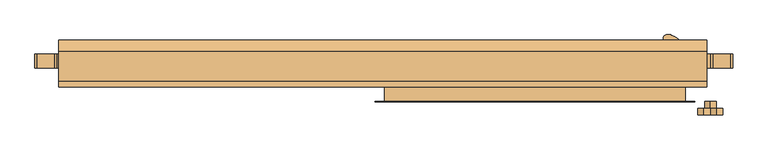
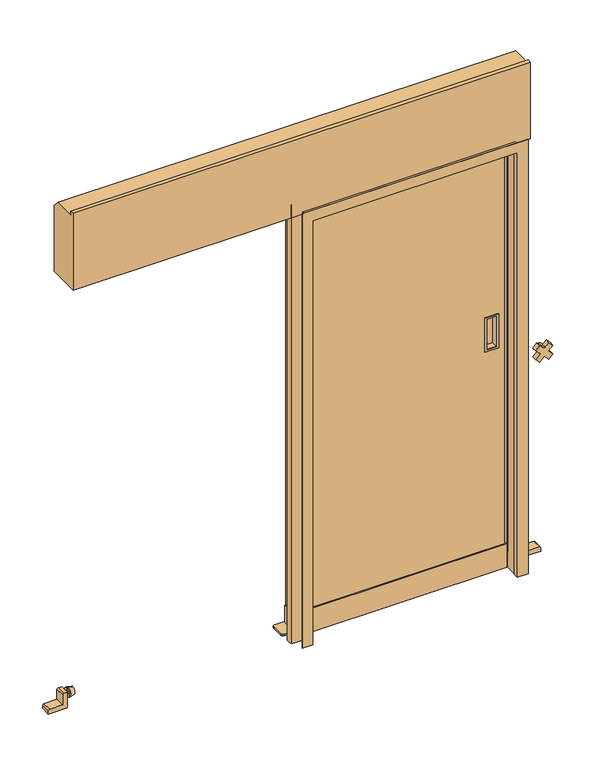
"""IFC4 building model written with IfcOpenShell, lengths in millimetres: door geometry, 冷蔵_片引きスライドドア3方_自閉 : W870xH1905xt55."""

from ifc_helpers import new_model, si_unit, point, frame, frame_2d, origin, origin_with_axes, place, context, project, spatial, polyline, circle_curve, trimmed, segment, composite_curve, outline, extrude, faceted_brep, source, transform, mapped, element, save
from ifc_brep_helpers import plane_surface, cylinder_surface, revolved_surface, advanced_brep


def door_0f3012db(model_context):
    return source(origin(), model_context, "Body", "SolidModel", [
        faceted_brep([(470.0, 112.5, 1940.0), (-470.0, 112.5, 1940.0), (-470.0, 68.5, 1940.0), (470.0, 68.5, 1940.0), (470.0, 112.5, 70.0), (470.0, 68.5, 70.0), (425.0, 68.5, 70.0), (425.0, 57.5, 70.0), (-425.0, 57.5, 70.0), (-425.0, 68.5, 70.0), (-470.0, 68.5, 70.0), (-470.0, 112.5, 70.0), (-425.0, 68.5, 1895.0), (425.0, 68.5, 1895.0), (-425.0, 57.5, 1895.0), (425.0, 57.5, 1895.0), (350.500035, 57.5, 1138.0), (390.500035, 57.5, 1138.0), (390.500035, 57.5, 1002.0), (350.500035, 57.5, 1002.0), (350.500035, 85.5, 1138.0), (390.500035, 85.5, 1138.0), (350.500035, 85.5, 1002.0), (390.500035, 85.5, 1002.0)], [[[0, 1, 2, 3]], [[4, 5, 6, 7, 8, 9, 10, 11]], [[1, 0, 4, 11]], [[2, 1, 11, 10]], [[3, 2, 10, 9, 12, 13, 6, 5]], [[0, 3, 5, 4]], [[12, 14, 15, 13]], [[14, 12, 9, 8]], [[15, 14, 8, 7], [16, 17, 18, 19]], [[13, 15, 7, 6]], [[20, 21, 17, 16]], [[20, 16, 19, 22]], [[22, 19, 18, 23]], [[17, 21, 23, 18]], [[21, 20, 22, 23]]]),
        extrude(outline(polyline([(1147.0, 399.500035), (1147.0, 341.500035), (993.0, 341.500035), (993.0, 399.500035), (1147.0, 399.500035)]), holes=[polyline([(1002.0, 390.500035), (1002.0, 350.500035), (1138.0, 350.500035), (1138.0, 390.500035), (1002.0, 390.500035)])]), frame((0.0, 55.499995, 0.0), z_axis=(0.0, 1.0, 0.0), x_axis=(0.0, 0.0, 1.0)), (0.0, 0.0, 1.0), 2.000005),
        extrude(outline(polyline([(73.49997, 35.00001), (61.49997, 47.00001), (61.49997, 110.00001), (111.49997, 110.00001), (111.49997, 35.00001), (73.49997, 35.00001)])), frame((-476.0, 0.0, 0.0), z_axis=(1.0, 0.0, 0.0), x_axis=(0.0, 1.0, 0.0)), (0.0, 0.0, 1.0), 6.0),
        extrude(outline(polyline([(73.49997, 35.00001), (61.49997, 47.00001), (61.49997, 110.00001), (111.49997, 110.00001), (111.49997, 35.00001), (73.49997, 35.00001)])), frame((470.0, 0.0, 0.0), z_axis=(1.0, 0.0, 0.0), x_axis=(0.0, 1.0, 0.0)), (0.0, 0.0, 1.0), 6.0),
        extrude(outline(polyline([(470.0, 112.5), (470.0, 77.49997), (-470.0, 77.49997), (-470.0, 112.5), (470.0, 112.5)])), frame((0.0, 0.0, 35.00001), z_axis=(0.0, 0.0, 1.0), x_axis=(1.0, 0.0, 0.0)), (0.0, 0.0, 1.0), 34.99999),
        extrude(outline(polyline([(-432.0, 68.5), (432.0, 68.5), (432.0, 51.499345), (-432.0, 51.499345), (-432.0, 68.5)])), frame((0.0, 0.0, -0.004205), z_axis=(0.0, 0.0, 1.0), x_axis=(1.0, 0.0, 0.0)), (0.0, 0.0, 1.0), 105.0),
        extrude(outline(polyline([(460.4985861, 48.9116213), (432.5014439, 48.9116213), (432.5014439, 68.5), (460.4985861, 68.5), (460.4985861, 48.9116213)])), frame((0.0, 0.0, 70.0), z_axis=(0.0, 0.0, 1.0), x_axis=(1.0, 0.0, 0.0)), (0.0, 0.0, 1.0), 1825.0),
        extrude(outline(polyline([(-460.4985861, 48.9116213), (-460.4985861, 68.5), (-432.5014439, 68.5), (-432.5014439, 48.9116213), (-460.4985861, 48.9116213)])), frame((0.0, 0.0, 70.0), z_axis=(0.0, 0.0, 1.0), x_axis=(1.0, 0.0, 0.0)), (0.0, 0.0, 1.0), 1825.0),
        extrude(outline(polyline([(460.4985861, 68.5), (460.4985861, 48.9116213), (-460.4985861, 48.9116213), (-460.4985861, 68.5), (460.4985861, 68.5)])), frame((0.0, 0.0, 1902.4986091), z_axis=(0.0, 0.0, 1.0), x_axis=(1.0, 0.0, 0.0)), (0.0, 0.0, 1.0), 28.0),
        extrude(outline(polyline([(1037.123106, 544.9454365), (1017.6776695, 525.5), (1037.123106, 506.0545635), (1019.4454365, 488.376894), (1000.0, 507.8223305), (980.5545635, 488.376894), (962.876894, 506.0545635), (982.3223305, 525.5), (962.876894, 544.9454365), (980.5545635, 562.623106), (1000.0, 543.1776695), (1019.4454365, 562.623106), (1037.123106, 544.9454365)])), frame((0.0, -62.0, 0.0), z_axis=(0.0, 1.0, 0.0), x_axis=(0.0, 0.0, 1.0)), (0.0, 0.0, 1.0), 20.0),
        extrude(outline(composite_curve([segment(trimmed(circle_curve(frame_2d((1000.0, 525.5)), 16.99999), [point((983.00001, 525.5))], [point((1016.99999, 525.5))], False, "CARTESIAN"), True, "CONTINUOUS"), segment(trimmed(circle_curve(frame_2d((1000.0, 525.5)), 16.99999), [point((1016.99999, 525.5))], [point((983.00001, 525.5))], False, "CARTESIAN"), True, "CONTINUOUS")], self_intersect=False)), frame((0.0, -42.0, 0.0), z_axis=(0.0, 1.0, 0.0), x_axis=(0.0, 0.0, 1.0)), (0.0, 0.0, 1.0), 20.0),
        advanced_brep(
        [(-1404.999995, 100.0, 32.99147), (-1404.999995, 100.0, 72.98458), (-1404.999995, 100.0, 60.988025), (-1404.999995, 100.0, 44.988025), (-1400.999995, 100.0, 32.99147), (-1400.999995, 100.0, 72.98458), (-1380.999995, 100.0, 37.9914727), (-1380.999995, 100.0, 67.9845773), (-1380.999995, 100.0, 52.988025), (-1416.99999, 100.0, 44.988025), (-1416.99999, 100.0, 60.988025), (-1416.99999, 100.0, 52.988025)],
        [
            (0, 1, circle_curve(frame((-1404.999995, 100.0, 52.988025), z_axis=(-1.0, 0.0, 0.0), x_axis=(0.0, 0.0, 1.0)), 19.996555)),
            (1, 2),
            (2, 3, circle_curve(frame((-1404.999995, 100.0, 52.988025), z_axis=(1.0, 0.0, 0.0), x_axis=(0.0, 0.0, 1.0)), 8.0)),
            (3, 0),
            (1, 0, circle_curve(frame((-1404.999995, 100.0, 52.988025), z_axis=(-1.0, 0.0, 0.0), x_axis=(0.0, 0.0, 1.0)), 19.996555)),
            (3, 2, circle_curve(frame((-1404.999995, 100.0, 52.988025), z_axis=(1.0, 0.0, 0.0), x_axis=(0.0, 0.0, 1.0)), 8.0)),
            (4, 5, circle_curve(frame((-1400.999995, 100.0, 52.988025), z_axis=(-1.0, 0.0, 0.0), x_axis=(0.0, 0.0, 1.0)), 19.996555)),
            (5, 1),
            (0, 4),
            (5, 4, circle_curve(frame((-1400.999995, 100.0, 52.988025), z_axis=(-1.0, 0.0, 0.0), x_axis=(0.0, 0.0, 1.0)), 19.996555)),
            (6, 7, circle_curve(frame((-1380.999995, 100.0, 52.988025), z_axis=(-1.0, 0.0, 0.0), x_axis=(0.0, 0.0, 1.0)), 14.9965523)),
            (7, 5),
            (4, 6),
            (7, 6, circle_curve(frame((-1380.999995, 100.0, 52.988025), z_axis=(-1.0, 0.0, 0.0), x_axis=(0.0, 0.0, 1.0)), 14.9965523)),
            (8, 7),
            (6, 8),
            (9, 10, circle_curve(frame((-1416.99999, 100.0, 52.988025), z_axis=(-1.0, 0.0, 0.0), x_axis=(0.0, 0.0, 1.0)), 8.0)),
            (10, 11),
            (11, 9),
            (10, 9, circle_curve(frame((-1416.99999, 100.0, 52.988025), z_axis=(-1.0, 0.0, 0.0), x_axis=(0.0, 0.0, 1.0)), 8.0)),
            (2, 10),
            (9, 3),
        ],
        [
            plane_surface(frame((-1404.999995, 100.0, 52.988025), z_axis=(-1.0, 0.0, 0.0), x_axis=(0.0, 0.0, 1.0))),
            cylinder_surface(frame((-1380.999995, 100.0, 52.988025), z_axis=(1.0, 0.0, 0.0), x_axis=(0.0, 0.0, 1.0)), 19.996555),
            revolved_surface(polyline([(-1400.999995, 100.0, 72.98458), (-1380.999995, 100.0, 67.9845773)]), (-1380.999995, 100.0, 52.988025), (1.0, 0.0, 0.0)),
            plane_surface(frame((-1380.999995, 100.0, 52.988025), z_axis=(1.0, 0.0, 0.0), x_axis=(0.0, 0.0, 1.0))),
            plane_surface(frame((-1416.99999, 100.0, 52.988025), z_axis=(-1.0, 0.0, 0.0), x_axis=(0.0, 0.0, 1.0))),
            cylinder_surface(frame((-1380.999995, 100.0, 52.988025), z_axis=(1.0, 0.0, 0.0), x_axis=(0.0, 0.0, 1.0)), 8.0),
        ],
        [
            (0, [[1, 2, 3, 4]]),
            (0, [[5, -4, 6, -2]]),
            (1, [[7, 8, -1, 9]]),
            (1, [[10, -9, -5, -8]]),
            (2, [[11, 12, -7, 13]]),
            (2, [[14, -13, -10, -12]]),
            (3, [[15, -11, 16]]),
            (3, [[-16, -14, -15]]),
            (4, [[17, 18, 19]]),
            (4, [[20, -19, -18]]),
            (5, [[-3, 21, -17, 22]]),
            (5, [[-6, -22, -20, -21]]),
        ],
    ),
        extrude(outline(polyline([(0.000626, -1416.99999), (69.99063, -1416.99999), (69.99771, -1431.99999), (64.99725, -1437.0), (19.99062, -1437.0), (19.99311, -1491.99999), (14.99265, -1497.0), (-0.00939, -1497.0), (0.000626, -1416.99999)])), frame((0.0, 78.99775, 0.0), z_axis=(0.0, 1.0, 0.0), x_axis=(0.0, 0.0, 1.0)), (0.0, 0.0, 1.0), 42.00225),
        advanced_brep(
        [(499.999995, 100.0, 32.99147), (499.999995, 100.0, 72.98458), (499.999995, 100.0, 60.988025), (499.999995, 100.0, 44.988025), (495.999995, 100.0, 32.99147), (495.999995, 100.0, 72.98458), (475.999995, 100.0, 37.9914727), (475.999995, 100.0, 67.9845773), (475.999995, 100.0, 52.988025), (511.99999, 100.0, 44.988025), (511.99999, 100.0, 60.988025), (511.99999, 100.0, 52.988025)],
        [
            (0, 1, circle_curve(frame((499.999995, 100.0, 52.988025), z_axis=(1.0, 0.0, 0.0), x_axis=(0.0, 0.0, 1.0)), 19.996555)),
            (1, 2),
            (2, 3, circle_curve(frame((499.999995, 100.0, 52.988025), z_axis=(-1.0, 0.0, 0.0), x_axis=(0.0, 0.0, 1.0)), 8.0)),
            (3, 0),
            (1, 0, circle_curve(frame((499.999995, 100.0, 52.988025), z_axis=(1.0, 0.0, 0.0), x_axis=(0.0, 0.0, 1.0)), 19.996555)),
            (3, 2, circle_curve(frame((499.999995, 100.0, 52.988025), z_axis=(-1.0, 0.0, 0.0), x_axis=(0.0, 0.0, 1.0)), 8.0)),
            (4, 5, circle_curve(frame((495.999995, 100.0, 52.988025), z_axis=(1.0, 0.0, 0.0), x_axis=(0.0, 0.0, 1.0)), 19.996555)),
            (5, 1),
            (0, 4),
            (5, 4, circle_curve(frame((495.999995, 100.0, 52.988025), z_axis=(1.0, 0.0, 0.0), x_axis=(0.0, 0.0, 1.0)), 19.996555)),
            (6, 7, circle_curve(frame((475.999995, 100.0, 52.988025), z_axis=(1.0, 0.0, 0.0), x_axis=(0.0, 0.0, 1.0)), 14.9965523)),
            (7, 5),
            (4, 6),
            (7, 6, circle_curve(frame((475.999995, 100.0, 52.988025), z_axis=(1.0, 0.0, 0.0), x_axis=(0.0, 0.0, 1.0)), 14.9965523)),
            (8, 7),
            (6, 8),
            (9, 10, circle_curve(frame((511.99999, 100.0, 52.988025), z_axis=(1.0, 0.0, 0.0), x_axis=(0.0, 0.0, 1.0)), 8.0)),
            (10, 11),
            (11, 9),
            (10, 9, circle_curve(frame((511.99999, 100.0, 52.988025), z_axis=(1.0, 0.0, 0.0), x_axis=(0.0, 0.0, 1.0)), 8.0)),
            (2, 10),
            (9, 3),
        ],
        [
            plane_surface(frame((499.999995, 100.0, 52.988025), z_axis=(1.0, 0.0, 0.0), x_axis=(0.0, 0.0, 1.0))),
            cylinder_surface(frame((475.999995, 100.0, 52.988025), z_axis=(-1.0, 0.0, 0.0), x_axis=(0.0, 0.0, 1.0)), 19.996555),
            revolved_surface(polyline([(495.999995, 100.0, 72.98458), (475.999995, 100.0, 67.9845773)]), (475.999995, 100.0, 52.988025), (-1.0, 0.0, 0.0)),
            plane_surface(frame((475.999995, 100.0, 52.988025), z_axis=(-1.0, 0.0, 0.0), x_axis=(0.0, 0.0, 1.0))),
            plane_surface(frame((511.99999, 100.0, 52.988025), z_axis=(1.0, 0.0, 0.0), x_axis=(0.0, 0.0, 1.0))),
            cylinder_surface(frame((475.999995, 100.0, 52.988025), z_axis=(-1.0, 0.0, 0.0), x_axis=(0.0, 0.0, 1.0)), 8.0),
        ],
        [
            (0, [[1, 2, 3, 4]]),
            (0, [[5, -4, 6, -2]]),
            (1, [[7, 8, -1, 9]]),
            (1, [[10, -9, -5, -8]]),
            (2, [[11, 12, -7, 13]]),
            (2, [[14, -13, -10, -12]]),
            (3, [[15, -11, 16]]),
            (3, [[-16, -14, -15]]),
            (4, [[17, 18, 19]]),
            (4, [[20, -19, -18]]),
            (5, [[-3, 21, -17, 22]]),
            (5, [[-6, -22, -20, -21]]),
        ],
    ),
        extrude(outline(polyline([(0.000626, 511.99999), (-0.00939, 592.0), (14.99265, 592.0), (19.99311, 586.99999), (19.99062, 532.0), (64.99725, 532.0), (69.99771, 526.99999), (69.99063, 511.99999), (0.000626, 511.99999)])), frame((0.0, 79.0, 0.0), z_axis=(0.0, 1.0, 0.0), x_axis=(0.0, 0.0, 1.0)), (0.0, 0.0, 1.0), 42.00225),
        extrude(outline(composite_curve([segment(polyline([(-433.999285, 141.49999), (-433.999285, 90.49999)]), True, "CONTINUOUS"), segment(trimmed(circle_curve(frame_2d((-443.999285, 90.49999)), 10.0), [point((-433.999285, 90.49999))], [point((-443.999285, 80.49999))], False, "CARTESIAN"), True, "CONTINUOUS"), segment(polyline([(-443.999285, 80.49999), (-495.00008, 80.49999)]), True, "CONTINUOUS"), segment(trimmed(circle_curve(frame_2d((-495.00008, 90.49999)), 10.0), [point((-495.00008, 80.49999))], [point((-505.00008, 90.49999))], False, "CARTESIAN"), True, "CONTINUOUS"), segment(polyline([(-505.00008, 90.49999), (-505.00008, 141.49999)]), True, "CONTINUOUS"), segment(trimmed(circle_curve(frame_2d((-495.00008, 141.49999)), 10.0), [point((-505.00008, 141.49999))], [point((-495.00008, 151.49999))], False, "CARTESIAN"), True, "CONTINUOUS"), segment(polyline([(-495.00008, 151.49999), (-443.999285, 151.49999)]), True, "CONTINUOUS"), segment(trimmed(circle_curve(frame_2d((-443.999285, 141.49999)), 10.0), [point((-443.999285, 151.49999))], [point((-433.999285, 141.49999))], False, "CARTESIAN"), True, "CONTINUOUS")], self_intersect=False)), origin_with_axes(), (0.0, 0.0, 1.0), 6.0),
        extrude(outline(composite_curve([segment(polyline([(504.50008, 141.49999), (504.50008, 90.49999)]), True, "CONTINUOUS"), segment(trimmed(circle_curve(frame_2d((494.50008, 90.49999)), 10.0), [point((504.50008, 90.49999))], [point((494.50008, 80.49999))], False, "CARTESIAN"), True, "CONTINUOUS"), segment(polyline([(494.50008, 80.49999), (443.499285, 80.49999)]), True, "CONTINUOUS"), segment(trimmed(circle_curve(frame_2d((443.499285, 90.49999)), 10.0), [point((443.499285, 80.49999))], [point((433.499285, 90.49999))], False, "CARTESIAN"), True, "CONTINUOUS"), segment(polyline([(433.499285, 90.49999), (433.499285, 141.49999)]), True, "CONTINUOUS"), segment(trimmed(circle_curve(frame_2d((443.499285, 141.49999)), 10.0), [point((433.499285, 141.49999))], [point((443.499285, 151.49999))], False, "CARTESIAN"), True, "CONTINUOUS"), segment(polyline([(443.499285, 151.49999), (494.50008, 151.49999)]), True, "CONTINUOUS"), segment(trimmed(circle_curve(frame_2d((494.50008, 141.49999)), 10.0), [point((494.50008, 151.49999))], [point((504.50008, 141.49999))], False, "CARTESIAN"), True, "CONTINUOUS")], self_intersect=False)), origin_with_axes(), (0.0, 0.0, 1.0), 5.99685),
        extrude(outline(polyline([(162.5, 2207.61005), (162.5, 1910.000385), (22.0, 1910.000385), (22.0, 2255.0), (38.499875, 2255.0), (38.499875, 2239.99995), (130.1101, 2239.99995), (162.5, 2207.61005)])), frame((-1425.0, 0.0, 0.0), z_axis=(1.0, 0.0, 0.0), x_axis=(0.0, 1.0, 0.0)), (0.0, 0.0, 1.0), 1940.0),
        faceted_brep([(-435.0, -22.0, 0.0), (-451.00103, -22.0, 0.0), (-451.00103, 22.0, 0.0), (-500.0, 22.0, 0.0), (-500.0, 49.0, 0.0), (-435.0, 49.0, 0.0), (-435.0, -22.0, 1905.0), (435.0, -22.0, 1905.0), (435.0, -22.0, 0.0), (451.00103, -22.0, 0.0), (451.00103, -22.0, 1921.00103), (-451.00103, -22.0, 1921.00103), (-451.00103, 22.0, 1921.00103), (451.00103, 22.0, 1921.00103), (451.00103, 22.0, 0.0), (500.0, 22.0, 0.0), (500.0, 22.0, 1970.0), (-500.0, 22.0, 1970.0), (-500.0, 49.0, 1970.0), (500.0, 49.0, 1970.0), (500.0, 49.0, 0.0), (435.0, 49.0, 0.0), (435.0, 49.0, 1905.0), (-435.0, 49.0, 1905.0)], [[[0, 1, 2, 3, 4, 5]], [[1, 0, 6, 7, 8, 9, 10, 11]], [[2, 1, 11, 12]], [[3, 2, 12, 13, 14, 15, 16, 17]], [[4, 3, 17, 18]], [[5, 4, 18, 19, 20, 21, 22, 23]], [[0, 5, 23, 6]], [[7, 22, 21, 8]], [[8, 21, 20, 15, 14, 9]], [[13, 10, 9, 14]], [[19, 16, 15, 20]], [[12, 11, 10, 13]], [[18, 17, 16, 19]], [[6, 23, 22, 7]]]),
        faceted_brep([(-479.0, -23.2, 0.0), (-479.0, -22.0, 0.0), (-435.0, -22.0, 0.0), (-435.0, -1.2, 0.0), (-433.8, -1.2, 0.0), (-433.8, -23.2, 0.0), (-479.0, -23.2, 1949.0), (-479.0, -22.0, 1949.0), (479.0, -22.0, 1949.0), (479.0, -22.0, 0.0), (435.0, -22.0, 0.0), (435.0, -22.0, 1905.0), (-435.0, -22.0, 1905.0), (-435.0, -1.2, 1905.0), (435.0, -1.2, 1905.0), (435.0, -1.2, 0.0), (433.8, -1.2, 0.0), (433.8, -1.2, 1903.8), (-433.8, -1.2, 1903.8), (-433.8, -23.2, 1903.8), (433.8, -23.2, 1903.8), (433.8, -23.2, 0.0), (479.0, -23.2, 0.0), (479.0, -23.2, 1949.0)], [[[0, 1, 2, 3, 4, 5]], [[1, 0, 6, 7]], [[2, 1, 7, 8, 9, 10, 11, 12]], [[3, 2, 12, 13]], [[4, 3, 13, 14, 15, 16, 17, 18]], [[5, 4, 18, 19]], [[0, 5, 19, 20, 21, 22, 23, 6]], [[8, 23, 22, 9]], [[22, 21, 16, 15, 10, 9]], [[14, 11, 10, 15]], [[20, 17, 16, 21]], [[7, 6, 23, 8]], [[13, 12, 11, 14]], [[19, 18, 17, 20]]]),
        advanced_brep(
        [(408.6234406, 177.3571279, 850.0), (408.6234402, 157.6428419, 850.0), (404.50281, 156.499985, 850.0), (393.89726, 156.499985, 850.0), (389.7766295, 157.6428424, 850.0), (389.7766298, 177.3571281, 850.0), (393.89726, 178.499985, 850.0), (404.50281, 178.499985, 850.0), (408.6234406, 177.3571279, 1350.0), (408.6234402, 157.6428419, 1350.0), (404.50281, 156.499985, 1350.0), (393.89726, 156.499985, 1350.0), (389.7766295, 157.6428424, 1350.0), (389.7766298, 177.3571281, 1350.0), (393.89726, 178.499985, 1350.0), (404.50281, 178.499985, 1350.0)],
        [
            (0, 1, circle_curve(frame((402.700035, 167.499985, 850.0), z_axis=(0.0, 0.0, -1.0), x_axis=(0.0, -1.0, 0.0)), 11.5)),
            (1, 2, circle_curve(frame((404.50281, 164.499985, 850.0), z_axis=(0.0, 0.0, -1.0), x_axis=(0.0, -1.0, 0.0)), 8.0)),
            (2, 3),
            (3, 4, circle_curve(frame((393.89726, 164.499985, 850.0), z_axis=(0.0, 0.0, -1.0), x_axis=(0.0, -1.0, 0.0)), 8.0)),
            (4, 5, circle_curve(frame((395.700035, 167.499985, 850.0), z_axis=(0.0, 0.0, -1.0), x_axis=(0.0, -1.0, 0.0)), 11.5)),
            (5, 6, circle_curve(frame((393.89726, 170.499985, 850.0), z_axis=(0.0, 0.0, -1.0), x_axis=(0.0, -1.0, 0.0)), 8.0)),
            (6, 7),
            (7, 0, circle_curve(frame((404.50281, 170.499985, 850.0), z_axis=(0.0, 0.0, -1.0), x_axis=(0.0, -1.0, 0.0)), 8.0)),
            (8, 9, circle_curve(frame((402.700035, 167.499985, 1350.0), z_axis=(0.0, 0.0, -1.0), x_axis=(0.0, -1.0, 0.0)), 11.5)),
            (9, 1),
            (0, 8),
            (9, 10, circle_curve(frame((404.50281, 164.499985, 1350.0), z_axis=(0.0, 0.0, -1.0), x_axis=(0.0, -1.0, 0.0)), 8.0)),
            (10, 2),
            (10, 11),
            (11, 3),
            (11, 12, circle_curve(frame((393.89726, 164.499985, 1350.0), z_axis=(0.0, 0.0, -1.0), x_axis=(0.0, -1.0, 0.0)), 8.0)),
            (12, 4),
            (12, 13, circle_curve(frame((395.700035, 167.499985, 1350.0), z_axis=(0.0, 0.0, -1.0), x_axis=(0.0, -1.0, 0.0)), 11.5)),
            (13, 5),
            (13, 14, circle_curve(frame((393.89726, 170.499985, 1350.0), z_axis=(0.0, 0.0, -1.0), x_axis=(0.0, -1.0, 0.0)), 8.0)),
            (14, 6),
            (14, 15),
            (15, 7),
            (15, 8, circle_curve(frame((404.50281, 170.499985, 1350.0), z_axis=(0.0, 0.0, -1.0), x_axis=(0.0, -1.0, 0.0)), 8.0)),
        ],
        [
            plane_surface(frame((404.50281, 162.499985, 850.0), z_axis=(0.0, 0.0, -1.0), x_axis=(-1.0, 0.0, 0.0))),
            cylinder_surface(frame((402.700035, 167.499985, 850.0), z_axis=(0.0, 0.0, 1.0), x_axis=(0.0, -1.0, 0.0)), 11.5),
            cylinder_surface(frame((404.50281, 164.499985, 850.0), z_axis=(0.0, 0.0, 1.0), x_axis=(0.0, -1.0, 0.0)), 8.0),
            plane_surface(frame((393.89726, 156.499985, 1350.0), z_axis=(0.0, -1.0, 0.0), x_axis=(0.0, 0.0, -1.0))),
            cylinder_surface(frame((393.89726, 164.499985, 850.0), z_axis=(0.0, 0.0, 1.0), x_axis=(0.0, -1.0, 0.0)), 8.0),
            cylinder_surface(frame((395.700035, 167.499985, 850.0), z_axis=(0.0, 0.0, 1.0), x_axis=(0.0, -1.0, 0.0)), 11.5),
            cylinder_surface(frame((393.89726, 170.499985, 850.0), z_axis=(0.0, 0.0, 1.0), x_axis=(0.0, -1.0, 0.0)), 8.0),
            plane_surface(frame((404.50281, 178.499985, 1350.0), z_axis=(0.0, 1.0, 0.0), x_axis=(0.0, 0.0, -1.0))),
            cylinder_surface(frame((404.50281, 170.499985, 850.0), z_axis=(0.0, 0.0, 1.0), x_axis=(0.0, -1.0, 0.0)), 8.0),
            plane_surface(frame((404.50281, 162.499985, 1350.0), z_axis=(0.0, 0.0, 1.0), x_axis=(1.0, 0.0, 0.0))),
        ],
        [
            (0, [[1, 2, 3, 4, 5, 6, 7, 8]]),
            (1, [[9, 10, -1, 11]]),
            (2, [[12, 13, -2, -10]]),
            (3, [[14, 15, -3, -13]]),
            (4, [[16, 17, -4, -15]]),
            (5, [[18, 19, -5, -17]]),
            (6, [[20, 21, -6, -19]]),
            (7, [[22, 23, -7, -21]]),
            (8, [[24, -11, -8, -23]]),
            (9, [[-24, -22, -20, -18, -16, -14, -12, -9]]),
        ],
    ),
        advanced_brep(
        [(393.89726, 178.499985, 830.0), (405.9684363, 178.499985, 830.0), (406.9851731, 178.322439, 830.0), (450.0081033, 133.5570327, 830.0), (451.4023369, 124.5176673, 830.0), (451.4023369, 112.5, 830.0), (408.600035, 112.5, 830.0), (408.600035, 132.0779954, 830.0), (398.0156732, 156.499985, 830.0), (393.89726, 156.499985, 830.0), (389.7766295, 157.6428424, 830.0), (389.7766298, 177.3571281, 830.0), (393.89726, 178.499985, 850.0), (389.77663, 177.3571279, 850.0), (389.7766294, 157.6428421, 850.0), (393.89726, 156.499985, 850.0), (398.0156732, 156.499985, 850.0), (408.600035, 132.0779954, 850.0), (408.600035, 112.5, 850.0), (451.4023369, 112.5, 850.0), (451.4023369, 124.5176673, 850.0), (450.0081033, 133.5570327, 850.0), (406.9851731, 178.322439, 850.0), (405.9684363, 178.499985, 850.0)],
        [
            (0, 1),
            (1, 2, circle_curve(frame((405.9684363, 175.499985, 830.0), z_axis=(0.0, 0.0, -1.0), x_axis=(0.0, -1.0, 0.0)), 3.0)),
            (2, 3, circle_curve(frame((383.261315, 112.46518, 830.0), z_axis=(0.0, 0.0, -1.0), x_axis=(0.0, -1.0, 0.0)), 70.0)),
            (3, 4, circle_curve(frame((421.4023369, 124.5176673, 830.0), z_axis=(0.0, 0.0, -1.0), x_axis=(0.0, -1.0, 0.0)), 30.0)),
            (4, 5),
            (5, 6),
            (6, 7),
            (7, 8, circle_curve(frame((375.1326278, 132.0779954, 830.0), z_axis=(0.0, 0.0, 1.0), x_axis=(0.0, -1.0, 0.0)), 33.4674072)),
            (8, 9),
            (9, 10, circle_curve(frame((393.89726, 164.499985, 830.0), z_axis=(0.0, 0.0, -1.0), x_axis=(0.0, -1.0, 0.0)), 8.0)),
            (10, 11, circle_curve(frame((395.700035, 167.499985, 830.0), z_axis=(0.0, 0.0, -1.0), x_axis=(0.0, -1.0, 0.0)), 11.5)),
            (11, 0, circle_curve(frame((393.89726, 170.499985, 830.0), z_axis=(0.0, 0.0, -1.0), x_axis=(0.0, -1.0, 0.0)), 8.0)),
            (12, 13, circle_curve(frame((393.89726, 170.499985, 850.0), z_axis=(0.0, 0.0, 1.0), x_axis=(0.0, -1.0, 0.0)), 8.0)),
            (13, 14, circle_curve(frame((395.700035, 167.499985, 850.0), z_axis=(0.0, 0.0, 1.0), x_axis=(0.0, -1.0, 0.0)), 11.5)),
            (14, 15, circle_curve(frame((393.89726, 164.499985, 850.0), z_axis=(0.0, 0.0, 1.0), x_axis=(0.0, -1.0, 0.0)), 8.0)),
            (15, 16),
            (16, 17, circle_curve(frame((375.1326278, 132.0779954, 850.0), z_axis=(0.0, 0.0, -1.0), x_axis=(0.0, -1.0, 0.0)), 33.4674072)),
            (17, 18),
            (18, 19),
            (19, 20),
            (20, 21, circle_curve(frame((421.4023369, 124.5176673, 850.0), z_axis=(0.0, 0.0, 1.0), x_axis=(0.0, -1.0, 0.0)), 30.0)),
            (21, 22, circle_curve(frame((383.261315, 112.46518, 850.0), z_axis=(0.0, 0.0, 1.0), x_axis=(0.0, -1.0, 0.0)), 70.0)),
            (22, 23, circle_curve(frame((405.9684363, 175.499985, 850.0), z_axis=(0.0, 0.0, 1.0), x_axis=(0.0, -1.0, 0.0)), 3.0)),
            (23, 12),
            (23, 1),
            (0, 12),
            (11, 13),
            (10, 14),
            (9, 15),
            (8, 16),
            (17, 7),
            (6, 18),
            (5, 19),
            (4, 20),
            (3, 21),
            (2, 22),
        ],
        [
            plane_surface(frame((393.89726, 162.499985, 830.0), z_axis=(0.0, 0.0, -1.0), x_axis=(-1.0, 0.0, 0.0))),
            plane_surface(frame((393.89726, 162.499985, 850.0), z_axis=(0.0, 0.0, 1.0), x_axis=(1.0, 0.0, 0.0))),
            plane_surface(frame((405.9684363, 178.499985, 850.0), z_axis=(0.0, 1.0, 0.0), x_axis=(0.0, 0.0, -1.0))),
            cylinder_surface(frame((393.89726, 170.499985, 830.0), z_axis=(0.0, 0.0, 1.0), x_axis=(0.0, -1.0, 0.0)), 8.0),
            cylinder_surface(frame((395.700035, 167.499985, 830.0), z_axis=(0.0, 0.0, 1.0), x_axis=(0.0, -1.0, 0.0)), 11.5),
            cylinder_surface(frame((393.89726, 164.499985, 830.0), z_axis=(0.0, 0.0, 1.0), x_axis=(0.0, -1.0, 0.0)), 8.0),
            plane_surface(frame((393.89726, 156.499985, 850.0), z_axis=(0.0, -1.0, 0.0), x_axis=(0.0, 0.0, -1.0))),
            plane_surface(frame((408.600035, 132.0779954, 850.0), z_axis=(-1.0, 0.0, 0.0), x_axis=(0.0, 0.0, -1.0))),
            plane_surface(frame((408.600035, 112.5, 850.0), z_axis=(0.0, -1.0, 0.0), x_axis=(0.0, 0.0, -1.0))),
            plane_surface(frame((451.4023369, 112.5, 850.0), z_axis=(1.0, 0.0, 0.0), x_axis=(0.0, 0.0, -1.0))),
            cylinder_surface(frame((421.4023369, 124.5176673, 830.0), z_axis=(0.0, 0.0, 1.0), x_axis=(0.0, -1.0, 0.0)), 30.0),
            cylinder_surface(frame((383.261315, 112.46518, 830.0), z_axis=(0.0, 0.0, 1.0), x_axis=(0.0, -1.0, 0.0)), 70.0),
            cylinder_surface(frame((405.9684363, 175.499985, 830.0), z_axis=(0.0, 0.0, 1.0), x_axis=(0.0, -1.0, 0.0)), 3.0),
            revolved_surface(polyline([(375.1326278, 98.6105882, 830.0), (375.1326278, 98.6105882, 850.0)]), (375.1326278, 132.0779954, 830.0), (0.0, 0.0, -1.0)),
        ],
        [
            (0, [[1, 2, 3, 4, 5, 6, 7, 8, 9, 10, 11, 12]]),
            (1, [[13, 14, 15, 16, 17, 18, 19, 20, 21, 22, 23, 24]]),
            (2, [[-24, 25, -1, 26]]),
            (3, [[-13, -26, -12, 27]]),
            (4, [[-14, -27, -11, 28]]),
            (5, [[-15, -28, -10, 29]]),
            (6, [[-16, -29, -9, 30]]),
            (7, [[-18, 31, -7, 32]]),
            (8, [[-19, -32, -6, 33]]),
            (9, [[-20, -33, -5, 34]]),
            (10, [[-21, -34, -4, 35]]),
            (11, [[-22, -35, -3, 36]]),
            (12, [[-23, -36, -2, -25]]),
            (13, [[-17, -30, -8, -31]]),
        ],
    ),
        advanced_brep(
        [(393.89726, 178.499985, 1370.0), (389.77663, 177.3571279, 1370.0), (389.7766294, 157.6428421, 1370.0), (393.89726, 156.499985, 1370.0), (398.0156732, 156.499985, 1370.0), (408.600035, 132.0779954, 1370.0), (408.600035, 112.5, 1370.0), (451.4023369, 112.5, 1370.0), (451.4023369, 124.5176673, 1370.0), (450.0081033, 133.5570327, 1370.0), (406.9851731, 178.322439, 1370.0), (405.9684363, 178.499985, 1370.0), (393.89726, 178.499985, 1349.99999), (405.9684363, 178.499985, 1349.99999), (406.9851731, 178.322439, 1349.99999), (450.0081033, 133.5570327, 1349.99999), (451.4023369, 124.5176673, 1349.99999), (451.4023369, 112.5, 1349.99999), (408.600035, 112.5, 1349.99999), (408.600035, 132.0779954, 1349.99999), (398.0156732, 156.499985, 1349.99999), (393.89726, 156.499985, 1349.99999), (389.7766295, 157.6428424, 1349.99999), (389.7766298, 177.3571281, 1349.99999)],
        [
            (0, 1, circle_curve(frame((393.89726, 170.499985, 1370.0), z_axis=(0.0, 0.0, 1.0), x_axis=(0.0, -1.0, 0.0)), 8.0)),
            (1, 2, circle_curve(frame((395.700035, 167.499985, 1370.0), z_axis=(0.0, 0.0, 1.0), x_axis=(0.0, -1.0, 0.0)), 11.5)),
            (2, 3, circle_curve(frame((393.89726, 164.499985, 1370.0), z_axis=(0.0, 0.0, 1.0), x_axis=(0.0, -1.0, 0.0)), 8.0)),
            (3, 4),
            (4, 5, circle_curve(frame((375.1326278, 132.0779954, 1370.0), z_axis=(0.0, 0.0, -1.0), x_axis=(0.0, -1.0, 0.0)), 33.4674072)),
            (5, 6),
            (6, 7),
            (7, 8),
            (8, 9, circle_curve(frame((421.4023369, 124.5176673, 1370.0), z_axis=(0.0, 0.0, 1.0), x_axis=(0.0, -1.0, 0.0)), 30.0)),
            (9, 10, circle_curve(frame((383.261315, 112.46518, 1370.0), z_axis=(0.0, 0.0, 1.0), x_axis=(0.0, -1.0, 0.0)), 70.0)),
            (10, 11, circle_curve(frame((405.9684363, 175.499985, 1370.0), z_axis=(0.0, 0.0, 1.0), x_axis=(0.0, -1.0, 0.0)), 3.0)),
            (11, 0),
            (12, 13),
            (13, 14, circle_curve(frame((405.9684363, 175.499985, 1349.99999), z_axis=(0.0, 0.0, -1.0), x_axis=(0.0, -1.0, 0.0)), 3.0)),
            (14, 15, circle_curve(frame((383.261315, 112.46518, 1349.99999), z_axis=(0.0, 0.0, -1.0), x_axis=(0.0, -1.0, 0.0)), 70.0)),
            (15, 16, circle_curve(frame((421.4023369, 124.5176673, 1349.99999), z_axis=(0.0, 0.0, -1.0), x_axis=(0.0, -1.0, 0.0)), 30.0)),
            (16, 17),
            (17, 18),
            (18, 19),
            (19, 20, circle_curve(frame((375.1326278, 132.0779954, 1349.99999), z_axis=(0.0, 0.0, 1.0), x_axis=(0.0, -1.0, 0.0)), 33.4674072)),
            (20, 21),
            (21, 22, circle_curve(frame((393.89726, 164.499985, 1349.99999), z_axis=(0.0, 0.0, -1.0), x_axis=(0.0, -1.0, 0.0)), 8.0)),
            (22, 23, circle_curve(frame((395.700035, 167.499985, 1349.99999), z_axis=(0.0, 0.0, -1.0), x_axis=(0.0, -1.0, 0.0)), 11.5)),
            (23, 12, circle_curve(frame((393.89726, 170.499985, 1349.99999), z_axis=(0.0, 0.0, -1.0), x_axis=(0.0, -1.0, 0.0)), 8.0)),
            (11, 13),
            (12, 0),
            (23, 1),
            (22, 2),
            (21, 3),
            (20, 4),
            (5, 19),
            (18, 6),
            (17, 7),
            (16, 8),
            (15, 9),
            (14, 10),
        ],
        [
            plane_surface(frame((393.89726, 162.499985, 1370.0), z_axis=(0.0, 0.0, 1.0), x_axis=(1.0, 0.0, 0.0))),
            plane_surface(frame((393.89726, 162.499985, 1349.99999), z_axis=(0.0, 0.0, -1.0), x_axis=(-1.0, 0.0, 0.0))),
            plane_surface(frame((405.9684363, 178.499985, 1370.0), z_axis=(0.0, 1.0, 0.0), x_axis=(0.0, 0.0, -1.0))),
            cylinder_surface(frame((393.89726, 170.499985, 1349.99999), z_axis=(0.0, 0.0, 1.0), x_axis=(0.0, -1.0, 0.0)), 8.0),
            cylinder_surface(frame((395.700035, 167.499985, 1349.99999), z_axis=(0.0, 0.0, 1.0), x_axis=(0.0, -1.0, 0.0)), 11.5),
            cylinder_surface(frame((393.89726, 164.499985, 1349.99999), z_axis=(0.0, 0.0, 1.0), x_axis=(0.0, -1.0, 0.0)), 8.0),
            plane_surface(frame((393.89726, 156.499985, 1370.0), z_axis=(0.0, -1.0, 0.0), x_axis=(0.0, 0.0, -1.0))),
            plane_surface(frame((408.600035, 132.0779954, 1370.0), z_axis=(-1.0, 0.0, 0.0), x_axis=(0.0, 0.0, -1.0))),
            plane_surface(frame((408.600035, 112.5, 1370.0), z_axis=(0.0, -1.0, 0.0), x_axis=(0.0, 0.0, -1.0))),
            plane_surface(frame((451.4023369, 112.5, 1370.0), z_axis=(1.0, 0.0, 0.0), x_axis=(0.0, 0.0, -1.0))),
            cylinder_surface(frame((421.4023369, 124.5176673, 1349.99999), z_axis=(0.0, 0.0, 1.0), x_axis=(0.0, -1.0, 0.0)), 30.0),
            cylinder_surface(frame((383.261315, 112.46518, 1349.99999), z_axis=(0.0, 0.0, 1.0), x_axis=(0.0, -1.0, 0.0)), 70.0),
            cylinder_surface(frame((405.9684363, 175.499985, 1349.99999), z_axis=(0.0, 0.0, 1.0), x_axis=(0.0, -1.0, 0.0)), 3.0),
            revolved_surface(polyline([(375.1326278, 98.6105882, 1349.99999), (375.1326278, 98.6105882, 1370.0)]), (375.1326278, 132.0779954, 1349.99999), (0.0, 0.0, -1.0)),
        ],
        [
            (0, [[1, 2, 3, 4, 5, 6, 7, 8, 9, 10, 11, 12]]),
            (1, [[13, 14, 15, 16, 17, 18, 19, 20, 21, 22, 23, 24]]),
            (2, [[-12, 25, -13, 26]]),
            (3, [[-1, -26, -24, 27]]),
            (4, [[-2, -27, -23, 28]]),
            (5, [[-3, -28, -22, 29]]),
            (6, [[-4, -29, -21, 30]]),
            (7, [[-6, 31, -19, 32]]),
            (8, [[-7, -32, -18, 33]]),
            (9, [[-8, -33, -17, 34]]),
            (10, [[-9, -34, -16, 35]]),
            (11, [[-10, -35, -15, 36]]),
            (12, [[-11, -36, -14, -25]]),
            (13, [[-5, -30, -20, -31]]),
        ],
    ),
    ])


if __name__ == "__main__":
    model = new_model("IFC4")
    model_context = context("Model", 3, world=origin())
    ifc_project = project(units=[si_unit("LENGTHUNIT", "METRE", prefix="MILLI")], contexts=[model_context])
    site = spatial("IfcSite", under=ifc_project)
    building = spatial("IfcBuilding", under=site)
    placement = place(None, origin())
    door_shape = door_0f3012db(model_context)
    element("IfcDoor", 1, ObjectType="冷蔵_片引きスライドドア3方_自閉 : W870xH1905xt55", at=placement, inside=building, context=model_context, shape_type="MappedRepresentation", body=[
        mapped(door_shape, transform((0.0, 0.0, 0.0), x_axis=(1.0, 0.0, 0.0), y_axis=(0.0, 1.0, 0.0), z_axis=(0.0, 0.0, 1.0))),
    ])
    save(model, "model.ifc")
